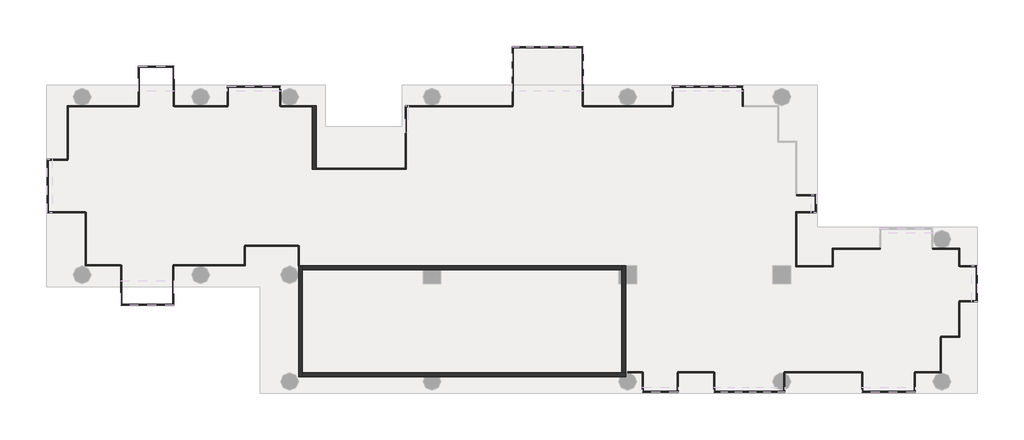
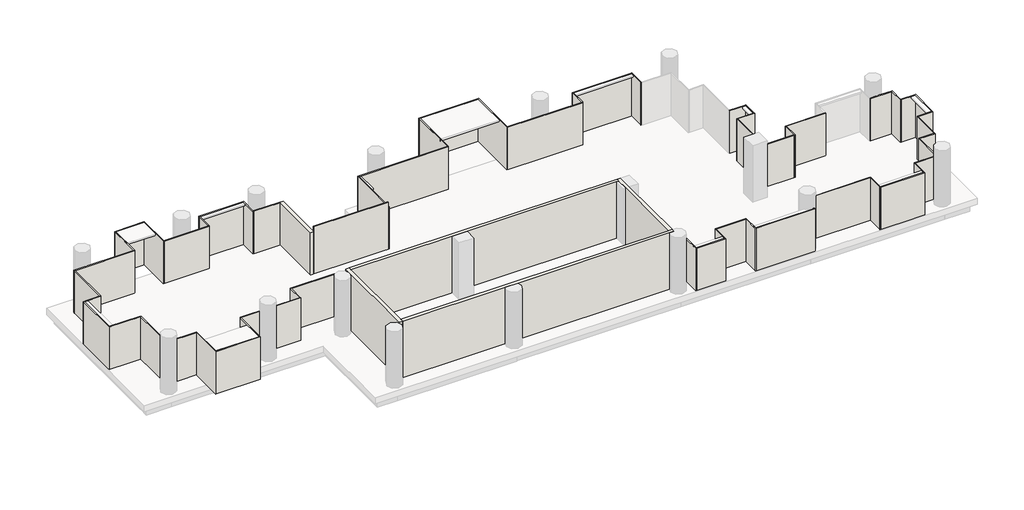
# One storey, part 1 of 2: 65 walls.
"""IFC4 building model written with IfcOpenShell, lengths in millimetres."""

from ifc_helpers import new_model, si_unit, frame, origin, place, context, project, spatial, polyline, outline, extrude, faceted_brep, element, save

model = new_model("IFC4")

# Units and contexts
model_context = context("Model", 3, world=origin())
ifc_project = project(units=[si_unit("LENGTHUNIT", "METRE", prefix="MILLI")], contexts=[model_context])

# Site, building, storey
site = spatial("IfcSite", under=ifc_project)
building = spatial("IfcBuilding", under=site)
storey = spatial("IfcBuildingStorey", under=building, Name="TW-L 18", Elevation=63999.9999686)

# Walls
placement = place(None, origin())
element("IfcWall", 1, ObjectType="AJN-ARC-CONCRETE WALL-20cm", at=placement, inside=storey, context=model_context, shape_type="Brep", body=[
    faceted_brep([(113050.0, 30750.0, 67599.9999686), (113050.0, 30750.0, 63999.9999686), (113050.0, 25150.0, 63999.9999686), (113050.0, 25150.0, 67599.9999686), (113250.0, 30750.0, 63999.9999686), (113250.0, 30750.0, 67599.9999686), (113250.0, 30550.0, 67599.9999686), (113250.0, 25350.0, 67599.9999686), (113250.0, 25150.0, 67599.9999686), (113250.0, 25150.0, 63999.9999686), (113250.0, 25350.0, 63999.9999686), (113250.0, 30550.0, 63999.9999686), (113097.1743518, 30750.0, 63999.9999686)], [[[0, 1, 2, 3]], [[4, 5, 6, 7, 8, 9, 10, 11]], [[2, 1, 12, 4, 11, 10, 9]], [[0, 3, 8, 7, 6, 5]], [[3, 2, 9, 8]], [[0, 5, 4, 12, 1]]]),
])
element("IfcWall", 2, ObjectType="AJN-ARC-CONCRETE WALL-20cm", at=placement, inside=storey, context=model_context, shape_type="Brep", body=[
    faceted_brep([(113250.0, 25150.0, 63999.9999686), (119425.8342613, 25150.0, 63999.9999686), (120174.1657387, 25150.0, 63999.9999686), (129325.8342613, 25150.0, 63999.9999686), (129600.0, 25150.0, 63999.9999686), (129600.0, 25150.0, 67599.9999686), (129325.8342613, 25150.0, 67599.9999686), (120174.1657387, 25150.0, 67599.9999686), (119425.8342613, 25150.0, 67599.9999686), (113250.0, 25150.0, 67599.9999686), (113250.0, 25350.0, 63999.9999686), (113250.0, 25350.0, 67599.9999686), (129400.0, 25350.0, 67599.9999686), (129600.0, 25350.0, 67599.9999686), (129600.0, 25350.0, 63999.9999686), (129400.0, 25350.0, 63999.9999686), (129600.0, 25338.7482194, 63999.9999686), (129600.0, 25338.7482194, 67599.9999686)], [[[0, 1, 2, 3, 4, 5, 6, 7, 8, 9]], [[10, 11, 12, 13, 14, 15]], [[4, 3, 2, 1, 0, 10, 15, 14, 16]], [[9, 8, 7, 6, 5, 17, 13, 12, 11]], [[5, 4, 16, 14, 13, 17]], [[0, 9, 11, 10]]]),
])
element("IfcWall", 3, ObjectType="AJN-ARC-CONCRETE WALL-20cm", at=placement, inside=storey, context=model_context, shape_type="Brep", body=[
    faceted_brep([(129600.0, 25350.0, 63999.9999686), (129600.0, 29850.0, 63999.9999686), (129600.0, 30750.0, 63999.9999686), (129600.0, 30750.0, 67599.9999686), (129600.0, 29850.0, 67599.9999686), (129600.0, 25350.0, 67599.9999686), (129400.0, 25350.0, 63999.9999686), (129400.0, 25350.0, 67599.9999686), (129400.0, 29850.0, 67599.9999686), (129400.0, 30550.0, 67599.9999686), (129400.0, 30750.0, 67599.9999686), (129400.0, 30750.0, 63999.9999686), (129400.0, 30550.0, 63999.9999686), (129400.0, 29850.0, 63999.9999686)], [[[0, 1, 2, 3, 4, 5]], [[6, 7, 8, 9, 10, 11, 12, 13]], [[2, 1, 0, 6, 13, 12, 11]], [[5, 4, 3, 10, 9, 8, 7]], [[3, 2, 11, 10]], [[0, 5, 7, 6]]]),
])
element("IfcWall", 4, ObjectType="AJN-ARC-CONCRETE WALL-20cm", at=placement, inside=storey, context=model_context, shape_type="Brep", body=[
    faceted_brep([(129400.0, 30750.0, 63999.9999686), (113250.0, 30750.0, 63999.9999686), (113250.0, 30750.0, 67599.9999686), (129400.0, 30750.0, 67599.9999686), (129400.0, 30550.0, 63999.9999686), (129400.0, 30550.0, 67599.9999686), (129250.0, 30550.0, 67599.9999686), (120250.0, 30550.0, 67599.9999686), (119350.0, 30550.0, 67599.9999686), (113250.0, 30550.0, 67599.9999686), (113250.0, 30550.0, 63999.9999686), (119350.0, 30550.0, 63999.9999686), (120250.0, 30550.0, 63999.9999686), (129250.0, 30550.0, 63999.9999686)], [[[0, 1, 2, 3]], [[4, 5, 6, 7, 8, 9, 10, 11, 12, 13]], [[1, 0, 4, 13, 12, 11, 10]], [[3, 2, 9, 8, 7, 6, 5]], [[0, 3, 5, 4]], [[1, 10, 9, 2]]]),
])
element("IfcWall", 5, ObjectType="AJN-ARC-CONCRETE WALL-20cm", at=placement, inside=storey, context=model_context, shape_type="Brep", body=[
    faceted_brep([(113950.0, 35650.0, 63999.9999686), (113950.0, 38850.001152, 63999.9999686), (113950.0, 38850.001152, 66699.9999686), (113950.0, 35650.0, 66699.9999686), (113750.0, 35650.0, 63999.9999686), (113750.0, 35650.0, 66699.9999686), (113750.0, 38800.001024, 66699.9999686), (113750.0, 38850.001024, 66699.9999686), (113750.0, 38850.001024, 63999.9999686), (113750.0, 38800.001024, 63999.9999686)], [[[0, 1, 2, 3]], [[4, 5, 6, 7, 8, 9]], [[1, 0, 4, 9, 8]], [[3, 2, 7, 6, 5]], [[0, 3, 5, 4]], [[2, 1, 8, 7]]]),
])
element("IfcWall", 6, ObjectType="AJN-ARC-GLASS-50mm", at=placement, inside=storey, context=model_context, shape_type="SweptSolid", body=[
    extrude(outline(polyline([(112150.0, 38850.0), (113750.0, 38850.001024), (113750.0, 38800.001024), (112150.000032, 38800.0), (112150.0, 38850.0)])), frame((0.0, 0.0, 63999.9999686), z_axis=(0.0, 0.0, 1.0), x_axis=(1.0, 0.0, 0.0)), (0.0, 0.0, 1.0), 2700.0),
])
element("IfcWall", 7, ObjectType="AJN-ARC-GLASS-50mm", at=placement, inside=storey, context=model_context, shape_type="Brep", body=[
    faceted_brep([(112150.0, 38824.999984, 63999.9999686), (112150.0, 39850.0, 63999.9999686), (112150.0, 39850.0, 66699.9999686), (112150.0, 38824.999984, 66699.9999686), (112100.0, 38824.999984, 63999.9999686), (112100.0, 38824.999984, 66699.9999686), (112100.0, 39800.0, 66699.9999686), (112100.0, 39850.0, 66699.9999686), (112100.0, 39850.0, 63999.9999686), (112100.0, 39800.0, 63999.9999686)], [[[0, 1, 2, 3]], [[4, 5, 6, 7, 8, 9]], [[1, 0, 4, 9, 8]], [[3, 2, 7, 6, 5]], [[0, 3, 5, 4]], [[2, 1, 8, 7]]]),
])
element("IfcWall", 8, ObjectType="AJN-ARC-GLASS-50mm", at=placement, inside=storey, context=model_context, shape_type="Brep", body=[
    faceted_brep([(112100.0, 39850.0, 63999.9999686), (109450.0, 39850.0, 63999.9999686), (109450.0, 39850.0, 66699.9999686), (112100.0, 39850.0, 66699.9999686), (112100.0, 39800.0, 63999.9999686), (112100.0, 39800.0, 66699.9999686), (109500.0, 39800.0, 66699.9999686), (109450.0, 39800.0, 66699.9999686), (109450.0, 39800.0, 63999.9999686), (109500.0, 39800.0, 63999.9999686)], [[[0, 1, 2, 3]], [[4, 5, 6, 7, 8, 9]], [[1, 0, 4, 9, 8]], [[3, 2, 7, 6, 5]], [[2, 1, 8, 7]], [[0, 3, 5, 4]]]),
])
element("IfcWall", 9, ObjectType="AJN-ARC-GLASS-50mm", at=placement, inside=storey, context=model_context, shape_type="SweptSolid", body=[
    extrude(outline(polyline([(109450.0, 38850.0), (109450.0, 39800.0), (109500.0, 39800.0), (109500.0, 38850.0), (109450.0, 38850.0)])), frame((0.0, 0.0, 63999.9999686), z_axis=(0.0, 0.0, 1.0), x_axis=(1.0, 0.0, 0.0)), (0.0, 0.0, 1.0), 2700.0),
])
element("IfcWall", 10, ObjectType="AJN-ARC-GLASS-50mm", at=placement, inside=storey, context=model_context, shape_type="SweptSolid", body=[
    extrude(outline(polyline([(106750.0, 38850.0), (109475.0, 38850.0), (109475.0, 38800.0), (106750.0, 38800.0), (106750.0, 38850.0)])), frame((0.0, 0.0, 63999.9999686), z_axis=(0.0, 0.0, 1.0), x_axis=(1.0, 0.0, 0.0)), (0.0, 0.0, 1.0), 2700.0),
])
element("IfcWall", 11, ObjectType="AJN-ARC-GLASS-50mm", at=placement, inside=storey, context=model_context, shape_type="Brep", body=[
    faceted_brep([(106750.0, 38825.0, 63999.9999686), (106750.0, 40850.0, 63999.9999686), (106750.0, 40850.0, 66699.9999686), (106750.0, 38825.0, 66699.9999686), (106700.0, 38825.0, 63999.9999686), (106700.0, 38825.0, 66699.9999686), (106700.0, 40800.0, 66699.9999686), (106700.0, 40850.0, 66699.9999686), (106700.0, 40850.0, 63999.9999686), (106700.0, 40800.0, 63999.9999686)], [[[0, 1, 2, 3]], [[4, 5, 6, 7, 8, 9]], [[1, 0, 4, 9, 8]], [[3, 2, 7, 6, 5]], [[0, 3, 5, 4]], [[2, 1, 8, 7]]]),
])
element("IfcWall", 12, ObjectType="AJN-ARC-GLASS-50mm", at=placement, inside=storey, context=model_context, shape_type="Brep", body=[
    faceted_brep([(106700.0, 40850.0, 63999.9999686), (104950.0, 40850.0, 63999.9999686), (104950.0, 40850.0, 66699.9999686), (106700.0, 40850.0, 66699.9999686), (106700.0, 40800.0, 63999.9999686), (106700.0, 40800.0, 66699.9999686), (105000.0, 40800.0, 66699.9999686), (104950.0, 40800.0, 66699.9999686), (104950.0, 40800.0, 63999.9999686), (105000.0, 40800.0, 63999.9999686)], [[[0, 1, 2, 3]], [[4, 5, 6, 7, 8, 9]], [[1, 0, 4, 9, 8]], [[3, 2, 7, 6, 5]], [[2, 1, 8, 7]], [[0, 3, 5, 4]]]),
])
element("IfcWall", 13, ObjectType="AJN-ARC-GLASS-50mm", at=placement, inside=storey, context=model_context, shape_type="SweptSolid", body=[
    extrude(outline(polyline([(104950.0, 38850.0), (104950.0, 40800.0), (105000.0, 40800.0), (105000.0, 38850.0), (104950.0, 38850.0)])), frame((0.0, 0.0, 63999.9999686), z_axis=(0.0, 0.0, 1.0), x_axis=(1.0, 0.0, 0.0)), (0.0, 0.0, 1.0), 2700.0),
])
element("IfcWall", 14, ObjectType="AJN-ARC-GLASS-50mm", at=placement, inside=storey, context=model_context, shape_type="Brep", body=[
    faceted_brep([(104975.000008, 38849.999992, 63999.9999686), (101347.1743518, 38850.001152, 63999.9999686), (101347.1743518, 38850.001152, 66699.9999686), (104975.000008, 38849.999992, 66699.9999686), (104974.999992, 38799.999992, 63999.9999686), (104974.999992, 38799.999992, 66699.9999686), (101397.1743518, 38800.001136, 66699.9999686), (101347.1743518, 38800.001152, 66699.9999686), (101347.1743518, 38800.001152, 63999.9999686), (101397.1743518, 38800.001136, 63999.9999686)], [[[0, 1, 2, 3]], [[4, 5, 6, 7, 8, 9]], [[1, 0, 4, 9, 8]], [[3, 2, 7, 6, 5]], [[0, 3, 5, 4]], [[2, 1, 8, 7]]]),
])
element("IfcWall", 15, ObjectType="AJN-ARC-GLASS-50mm", at=placement, inside=storey, context=model_context, shape_type="SweptSolid", body=[
    extrude(outline(polyline([(101347.1743518, 36150.0), (101347.1743518, 38800.001152), (101397.1743518, 38800.001136), (101397.1743518, 36150.0), (101347.1743518, 36150.0)])), frame((0.0, 0.0, 63999.9999686), z_axis=(0.0, 0.0, 1.0), x_axis=(1.0, 0.0, 0.0)), (0.0, 0.0, 1.0), 2700.0),
])
element("IfcWall", 16, ObjectType="AJN-ARC-GLASS-50mm", at=placement, inside=storey, context=model_context, shape_type="Brep", body=[
    faceted_brep([(101372.1743518, 36150.0, 63999.9999686), (100347.1743518, 36150.0, 63999.9999686), (100347.1743518, 36150.0, 66699.9999686), (101372.1743518, 36150.0, 66699.9999686), (101372.1743518, 36100.0, 63999.9999686), (101372.1743518, 36100.0, 66699.9999686), (100397.1743518, 36100.0, 66699.9999686), (100347.1743518, 36100.0, 66699.9999686), (100347.1743518, 36100.0, 63999.9999686), (100397.1743518, 36100.0, 63999.9999686)], [[[0, 1, 2, 3]], [[4, 5, 6, 7, 8, 9]], [[1, 0, 4, 9, 8]], [[3, 2, 7, 6, 5]], [[0, 3, 5, 4]], [[2, 1, 8, 7]]]),
])
element("IfcWall", 17, ObjectType="AJN-ARC-GLASS-50mm", at=placement, inside=storey, context=model_context, shape_type="Brep", body=[
    faceted_brep([(100347.1743518, 36100.0, 63999.9999686), (100347.1743518, 33450.0, 63999.9999686), (100347.1743518, 33450.0, 66699.9999686), (100347.1743518, 36100.0, 66699.9999686), (100397.1743518, 36100.0, 63999.9999686), (100397.1743518, 36100.0, 66699.9999686), (100397.1743518, 33500.0, 66699.9999686), (100397.1743518, 33450.0, 66699.9999686), (100397.1743518, 33450.0, 63999.9999686), (100397.1743518, 33500.0, 63999.9999686)], [[[0, 1, 2, 3]], [[4, 5, 6, 7, 8, 9]], [[1, 0, 4, 9, 8]], [[3, 2, 7, 6, 5]], [[2, 1, 8, 7]], [[0, 3, 5, 4]]]),
])
element("IfcWall", 18, ObjectType="AJN-ARC-GLASS-50mm", at=placement, inside=storey, context=model_context, shape_type="SweptSolid", body=[
    extrude(outline(polyline([(102247.1743518, 33450.0), (100397.1743518, 33450.0), (100397.1743518, 33500.0), (102247.1743518, 33500.0), (102247.1743518, 33450.0)])), frame((0.0, 0.0, 63999.9999686), z_axis=(0.0, 0.0, 1.0), x_axis=(1.0, 0.0, 0.0)), (0.0, 0.0, 1.0), 2700.0),
])
element("IfcWall", 19, ObjectType="AJN-ARC-GLASS-50mm", at=placement, inside=storey, context=model_context, shape_type="Brep", body=[
    faceted_brep([(102247.1743518, 33475.0, 63999.9999686), (102247.1743518, 30750.0, 63999.9999686), (102247.1743518, 30750.0, 66699.9999686), (102247.1743518, 33475.0, 66699.9999686), (102297.1743518, 33475.0, 63999.9999686), (102297.1743518, 33475.0, 66699.9999686), (102297.1743518, 30800.0, 66699.9999686), (102297.1743518, 30750.0, 66699.9999686), (102297.1743518, 30750.0, 63999.9999686), (102297.1743518, 30800.0, 63999.9999686)], [[[0, 1, 2, 3]], [[4, 5, 6, 7, 8, 9]], [[1, 0, 4, 9, 8]], [[3, 2, 7, 6, 5]], [[0, 3, 5, 4]], [[2, 1, 8, 7]]]),
])
element("IfcWall", 20, ObjectType="AJN-ARC-GLASS-50mm", at=placement, inside=storey, context=model_context, shape_type="SweptSolid", body=[
    extrude(outline(polyline([(104047.1743518, 30750.0), (102297.1743518, 30750.0), (102297.1743518, 30800.0), (104047.1743518, 30800.0), (104047.1743518, 30750.0)])), frame((0.0, 0.0, 63999.9999686), z_axis=(0.0, 0.0, 1.0), x_axis=(1.0, 0.0, 0.0)), (0.0, 0.0, 1.0), 2700.0),
])
element("IfcWall", 21, ObjectType="AJN-ARC-GLASS-50mm", at=placement, inside=storey, context=model_context, shape_type="Brep", body=[
    faceted_brep([(104047.1743518, 30775.0, 63999.9999686), (104047.1743518, 28750.0, 63999.9999686), (104047.1743518, 28750.0, 66699.9999686), (104047.1743518, 30775.0, 66699.9999686), (104097.1743518, 30775.0, 63999.9999686), (104097.1743518, 30775.0, 66699.9999686), (104097.1743518, 28800.0, 66699.9999686), (104097.1743518, 28750.0, 66699.9999686), (104097.1743518, 28750.0, 63999.9999686), (104097.1743518, 28800.0, 63999.9999686)], [[[0, 1, 2, 3]], [[4, 5, 6, 7, 8, 9]], [[1, 0, 4, 9, 8]], [[3, 2, 7, 6, 5]], [[0, 3, 5, 4]], [[2, 1, 8, 7]]]),
])
element("IfcWall", 22, ObjectType="AJN-ARC-GLASS-50mm", at=placement, inside=storey, context=model_context, shape_type="Brep", body=[
    faceted_brep([(104097.1743518, 28750.0, 63999.9999686), (106747.1743518, 28750.0, 63999.9999686), (106747.1743518, 28750.0, 66699.9999686), (104097.1743518, 28750.0, 66699.9999686), (104097.1743518, 28800.0, 63999.9999686), (104097.1743518, 28800.0, 66699.9999686), (106697.1743518, 28800.0, 66699.9999686), (106747.1743518, 28800.0, 66699.9999686), (106747.1743518, 28800.0, 63999.9999686), (106697.1743518, 28800.0, 63999.9999686)], [[[0, 1, 2, 3]], [[4, 5, 6, 7, 8, 9]], [[1, 0, 4, 9, 8]], [[3, 2, 7, 6, 5]], [[2, 1, 8, 7]], [[0, 3, 5, 4]]]),
])
element("IfcWall", 23, ObjectType="AJN-ARC-GLASS-50mm", at=placement, inside=storey, context=model_context, shape_type="SweptSolid", body=[
    extrude(outline(polyline([(106747.1743518, 30750.0), (106747.1743518, 28800.0), (106697.1743518, 28800.0), (106697.1743518, 30750.0), (106747.1743518, 30750.0)])), frame((0.0, 0.0, 63999.9999686), z_axis=(0.0, 0.0, 1.0), x_axis=(1.0, 0.0, 0.0)), (0.0, 0.0, 1.0), 2700.0),
])
element("IfcWall", 24, ObjectType="AJN-ARC-GLASS-50mm", at=placement, inside=storey, context=model_context, shape_type="Brep", body=[
    faceted_brep([(106722.1743518, 30750.0, 63999.9999686), (110347.1743518, 30750.0, 63999.9999686), (110347.1743518, 30750.0, 66699.9999686), (106722.1743518, 30750.0, 66699.9999686), (106722.1743518, 30800.0, 63999.9999686), (106722.1743518, 30800.0, 66699.9999686), (110297.1743518, 30800.0, 66699.9999686), (110347.1743518, 30800.0, 66699.9999686), (110347.1743518, 30800.0, 63999.9999686), (110297.1743518, 30800.0, 63999.9999686)], [[[0, 1, 2, 3]], [[4, 5, 6, 7, 8, 9]], [[1, 0, 4, 9, 8]], [[3, 2, 7, 6, 5]], [[0, 3, 5, 4]], [[2, 1, 8, 7]]]),
])
element("IfcWall", 25, ObjectType="AJN-ARC-GLASS-50mm", at=placement, inside=storey, context=model_context, shape_type="SweptSolid", body=[
    extrude(outline(polyline([(110347.1743518, 31750.0), (110347.1743518, 30800.0), (110297.1743518, 30800.0), (110297.1743518, 31750.0), (110347.1743518, 31750.0)])), frame((0.0, 0.0, 63999.9999686), z_axis=(0.0, 0.0, 1.0), x_axis=(1.0, 0.0, 0.0)), (0.0, 0.0, 1.0), 2700.0),
])
element("IfcWall", 26, ObjectType="AJN-ARC-GLASS-50mm", at=placement, inside=storey, context=model_context, shape_type="SweptSolid", body=[
    extrude(outline(polyline([(113047.1743518, 31750.0), (110322.1743518, 31750.0), (110322.1743518, 31800.0), (113047.1743518, 31800.0), (113047.1743518, 31750.0)])), frame((0.0, 0.0, 63999.9999686), z_axis=(0.0, 0.0, 1.0), x_axis=(1.0, 0.0, 0.0)), (0.0, 0.0, 1.0), 2700.0),
])
element("IfcWall", 27, ObjectType="AJN-ARC-GLASS-50mm", at=placement, inside=storey, context=model_context, shape_type="Brep", body=[
    faceted_brep([(113047.1743518, 31775.0, 63999.9999686), (113047.1743518, 30750.0, 63999.9999686), (113047.1743518, 30750.0, 66699.9999686), (113047.1743518, 31775.0, 66699.9999686), (113097.1743518, 31775.0, 63999.9999686), (113097.1743518, 31775.0, 66699.9999686), (113097.1743518, 30750.0, 66699.9999686), (113097.1743518, 30750.0, 63999.9999686), (113050.0, 30750.0, 63999.9999686)], [[[0, 1, 2, 3]], [[4, 5, 6, 7]], [[1, 0, 4, 7, 8]], [[3, 2, 6, 5]], [[0, 3, 5, 4]], [[2, 1, 8, 7, 6]]]),
])
element("IfcWall", 28, ObjectType="AJN-ARC-GLASS-50mm", at=placement, inside=storey, context=model_context, shape_type="Brep", body=[
    faceted_brep([(138250.0, 30700.0, 63999.9999686), (138250.0, 30750.0, 63999.9999686), (138250.0, 33450.0, 63999.9999686), (138250.0, 33450.0, 66699.9999686), (138250.0, 30750.0, 66699.9999686), (138250.0, 30700.0, 66699.9999686), (138200.0, 30700.0, 63999.9999686), (138200.0, 30700.0, 66699.9999686), (138200.0, 33450.0, 66699.9999686), (138200.0, 33450.0, 63999.9999686)], [[[0, 1, 2, 3, 4, 5]], [[6, 7, 8, 9]], [[2, 1, 0, 6, 9]], [[5, 4, 3, 8, 7]], [[0, 5, 7, 6]], [[3, 2, 9, 8]]]),
])
element("IfcWall", 29, ObjectType="AJN-ARC-GLASS-50mm", at=placement, inside=storey, context=model_context, shape_type="Brep", body=[
    faceted_brep([(138200.0, 33450.0, 63999.9999686), (138250.0, 33450.0, 63999.9999686), (139250.0, 33450.0, 63999.9999686), (139250.0, 33450.0, 66699.9999686), (138250.0, 33450.0, 66699.9999686), (138200.0, 33450.0, 66699.9999686), (138200.0, 33500.0, 63999.9999686), (138200.0, 33500.0, 66699.9999686), (139200.0, 33500.0, 66699.9999686), (139250.0, 33500.0, 66699.9999686), (139250.0, 33500.0, 63999.9999686), (139200.0, 33500.0, 63999.9999686)], [[[0, 1, 2, 3, 4, 5]], [[6, 7, 8, 9, 10, 11]], [[2, 1, 0, 6, 11, 10]], [[5, 4, 3, 9, 8, 7]], [[3, 2, 10, 9]], [[0, 5, 7, 6]]]),
])
element("IfcWall", 30, ObjectType="AJN-ARC-GLASS-50mm", at=placement, inside=storey, context=model_context, shape_type="Brep", body=[
    faceted_brep([(139250.0, 33500.0, 63999.9999686), (139250.0, 34350.0, 63999.9999686), (139250.0, 34350.0, 66699.9999686), (139250.0, 33500.0, 66699.9999686), (139200.0, 33500.0, 63999.9999686), (139200.0, 33500.0, 66699.9999686), (139200.0, 34300.0, 66699.9999686), (139200.0, 34350.0, 66699.9999686), (139200.0, 34350.0, 63999.9999686), (139200.0, 34300.0, 63999.9999686)], [[[0, 1, 2, 3]], [[4, 5, 6, 7, 8, 9]], [[1, 0, 4, 9, 8]], [[3, 2, 7, 6, 5]], [[2, 1, 8, 7]], [[0, 3, 5, 4]]]),
])
element("IfcWall", 31, ObjectType="AJN-ARC-GLASS-50mm", at=placement, inside=storey, context=model_context, shape_type="SweptSolid", body=[
    extrude(outline(polyline([(138250.0, 34350.0), (139200.0, 34350.0), (139200.0, 34300.0), (138250.0, 34300.0), (138250.0, 34350.0)])), frame((0.0, 0.0, 63999.9999686), z_axis=(0.0, 0.0, 1.0), x_axis=(1.0, 0.0, 0.0)), (0.0, 0.0, 1.0), 2700.0),
])
element("IfcWall", 32, ObjectType="AJN-ARC-GLASS-50mm", at=placement, inside=storey, context=model_context, shape_type="Brep", body=[
    faceted_brep([(135550.0, 38825.0, 63999.9999686), (135550.0, 39850.0, 63999.9999686), (135550.0, 39850.0, 66699.9999686), (135550.0, 38825.0, 66699.9999686), (135500.0, 38825.0, 63999.9999686), (135500.0, 38825.0, 66699.9999686), (135500.0, 39800.0, 66699.9999686), (135500.0, 39850.0, 66699.9999686), (135500.0, 39850.0, 63999.9999686), (135500.0, 39800.0, 63999.9999686)], [[[0, 1, 2, 3]], [[4, 5, 6, 7, 8, 9]], [[1, 0, 4, 9, 8]], [[3, 2, 7, 6, 5]], [[0, 3, 5, 4]], [[2, 1, 8, 7]]]),
])
element("IfcWall", 33, ObjectType="AJN-ARC-GLASS-50mm", at=placement, inside=storey, context=model_context, shape_type="Brep", body=[
    faceted_brep([(135500.0, 39850.0, 63999.9999686), (131950.0, 39850.0, 63999.9999686), (131950.0, 39850.0, 66699.9999686), (135500.0, 39850.0, 66699.9999686), (135500.0, 39800.0, 63999.9999686), (135500.0, 39800.0, 66699.9999686), (132000.0, 39800.0, 66699.9999686), (131950.0, 39800.0, 66699.9999686), (131950.0, 39800.0, 63999.9999686), (132000.0, 39800.0, 63999.9999686)], [[[0, 1, 2, 3]], [[4, 5, 6, 7, 8, 9]], [[1, 0, 4, 9, 8]], [[3, 2, 7, 6, 5]], [[2, 1, 8, 7]], [[0, 3, 5, 4]]]),
])
element("IfcWall", 34, ObjectType="AJN-ARC-GLASS-50mm", at=placement, inside=storey, context=model_context, shape_type="SweptSolid", body=[
    extrude(outline(polyline([(131950.0, 38850.0), (131950.0, 39800.0), (132000.0, 39800.0), (132000.0, 38850.0), (131950.0, 38850.0)])), frame((0.0, 0.0, 63999.9999686), z_axis=(0.0, 0.0, 1.0), x_axis=(1.0, 0.0, 0.0)), (0.0, 0.0, 1.0), 2700.0),
])
element("IfcWall", 35, ObjectType="AJN-ARC-GLASS-50mm", at=placement, inside=storey, context=model_context, shape_type="SweptSolid", body=[
    extrude(outline(polyline([(127463.0639015, 38850.0), (131975.0, 38850.0), (131975.0, 38800.0), (127463.0639015, 38800.0), (127463.0639015, 38850.0)])), frame((0.0, 0.0, 63999.9999686), z_axis=(0.0, 0.0, 1.0), x_axis=(1.0, 0.0, 0.0)), (0.0, 0.0, 1.0), 2700.0),
])
element("IfcWall", 36, ObjectType="AJN-ARC-GLASS-50mm", at=placement, inside=storey, context=model_context, shape_type="Brep", body=[
    faceted_brep([(127463.0639015, 38825.0, 63999.9999686), (127463.0639015, 41850.0, 63999.9999686), (127463.0639015, 41850.0, 66699.9999686), (127463.0639015, 38825.0, 66699.9999686), (127413.0639015, 38825.0, 63999.9999686), (127413.0639015, 38825.0, 66699.9999686), (127413.0639015, 41800.0, 66699.9999686), (127413.0639015, 41850.0, 66699.9999686), (127413.0639015, 41850.0, 63999.9999686), (127413.0639015, 41800.0, 63999.9999686)], [[[0, 1, 2, 3]], [[4, 5, 6, 7, 8, 9]], [[1, 0, 4, 9, 8]], [[3, 2, 7, 6, 5]], [[0, 3, 5, 4]], [[2, 1, 8, 7]]]),
])
element("IfcWall", 37, ObjectType="AJN-ARC-GLASS-50mm", at=placement, inside=storey, context=model_context, shape_type="Brep", body=[
    faceted_brep([(127413.0639015, 41850.0, 63999.9999686), (123863.0639015, 41850.0, 63999.9999686), (123863.0639015, 41850.0, 66699.9999686), (127413.0639015, 41850.0, 66699.9999686), (127413.0639015, 41800.0, 63999.9999686), (127413.0639015, 41800.0, 66699.9999686), (123913.0639015, 41800.0, 66699.9999686), (123863.0639015, 41800.0, 66699.9999686), (123863.0639015, 41800.0, 63999.9999686), (123913.0639015, 41800.0, 63999.9999686)], [[[0, 1, 2, 3]], [[4, 5, 6, 7, 8, 9]], [[1, 0, 4, 9, 8]], [[3, 2, 7, 6, 5]], [[2, 1, 8, 7]], [[0, 3, 5, 4]]]),
])
element("IfcWall", 38, ObjectType="AJN-ARC-GLASS-50mm", at=placement, inside=storey, context=model_context, shape_type="SweptSolid", body=[
    extrude(outline(polyline([(123863.0639015, 38850.0), (123863.0639015, 41800.0), (123913.0639015, 41800.0), (123913.0639015, 38850.0), (123863.0639015, 38850.0)])), frame((0.0, 0.0, 63999.9999686), z_axis=(0.0, 0.0, 1.0), x_axis=(1.0, 0.0, 0.0)), (0.0, 0.0, 1.0), 2700.0),
])
element("IfcWall", 39, ObjectType="AJN-ARC-GLASS-50mm", at=placement, inside=storey, context=model_context, shape_type="Brep", body=[
    faceted_brep([(123888.0639015, 38850.0, 63999.9999686), (118450.0, 38850.0, 63999.9999686), (118450.0, 38850.0, 66699.9999686), (123888.0639015, 38850.0, 66699.9999686), (123888.0639015, 38800.0, 63999.9999686), (123888.0639015, 38800.0, 66699.9999686), (118500.0, 38800.0, 66699.9999686), (118450.0, 38800.0, 66699.9999686), (118450.0, 38800.0, 63999.9999686), (118500.0, 38800.0, 63999.9999686)], [[[0, 1, 2, 3]], [[4, 5, 6, 7, 8, 9]], [[1, 0, 4, 9, 8]], [[3, 2, 7, 6, 5]], [[0, 3, 5, 4]], [[2, 1, 8, 7]]]),
])
element("IfcWall", 40, ObjectType="AJN-ARC-GLASS-50mm", at=placement, inside=storey, context=model_context, shape_type="SweptSolid", body=[
    extrude(outline(polyline([(130450.0, 25350.0), (129714.068817, 25350.0), (129714.068817, 25400.0), (130450.0, 25400.0), (130450.0, 25350.0)])), frame((0.0, 0.0, 63999.9999686), z_axis=(0.0, 0.0, 1.0), x_axis=(1.0, 0.0, 0.0)), (0.0, 0.0, 1.0), 2700.0),
])
element("IfcWall", 41, ObjectType="AJN-ARC-GLASS-50mm", at=placement, inside=storey, context=model_context, shape_type="Brep", body=[
    faceted_brep([(130450.0, 25375.0, 63999.9999686), (130450.0, 24350.0, 63999.9999686), (130450.0, 24350.0, 66699.9999686), (130450.0, 25375.0, 66699.9999686), (130500.0, 25375.0, 63999.9999686), (130500.0, 25375.0, 66699.9999686), (130500.0, 24400.0, 66699.9999686), (130500.0, 24350.0, 66699.9999686), (130500.0, 24350.0, 63999.9999686), (130500.0, 24400.0, 63999.9999686)], [[[0, 1, 2, 3]], [[4, 5, 6, 7, 8, 9]], [[1, 0, 4, 9, 8]], [[3, 2, 7, 6, 5]], [[0, 3, 5, 4]], [[2, 1, 8, 7]]]),
])
element("IfcWall", 42, ObjectType="AJN-ARC-GLASS-50mm", at=placement, inside=storey, context=model_context, shape_type="Brep", body=[
    faceted_brep([(130500.0, 24350.0, 63999.9999686), (132250.0, 24350.0, 63999.9999686), (132250.0, 24350.0, 66699.9999686), (130500.0, 24350.0, 66699.9999686), (130500.0, 24400.0, 63999.9999686), (130500.0, 24400.0, 66699.9999686), (132200.0, 24400.0, 66699.9999686), (132250.0, 24400.0, 66699.9999686), (132250.0, 24400.0, 63999.9999686), (132200.0, 24400.0, 63999.9999686)], [[[0, 1, 2, 3]], [[4, 5, 6, 7, 8, 9]], [[1, 0, 4, 9, 8]], [[3, 2, 7, 6, 5]], [[2, 1, 8, 7]], [[0, 3, 5, 4]]]),
])
element("IfcWall", 43, ObjectType="AJN-ARC-GLASS-50mm", at=placement, inside=storey, context=model_context, shape_type="SweptSolid", body=[
    extrude(outline(polyline([(132250.0, 25350.0), (132250.0, 24400.0), (132200.0, 24400.0), (132200.0, 25350.0), (132250.0, 25350.0)])), frame((0.0, 0.0, 63999.9999686), z_axis=(0.0, 0.0, 1.0), x_axis=(1.0, 0.0, 0.0)), (0.0, 0.0, 1.0), 2700.0),
])
element("IfcWall", 44, ObjectType="AJN-ARC-GLASS-50mm", at=placement, inside=storey, context=model_context, shape_type="SweptSolid", body=[
    extrude(outline(polyline([(134050.2351547, 25350.0), (132225.0, 25350.0), (132225.0, 25400.0), (134050.2351547, 25400.0), (134050.2351547, 25350.0)])), frame((0.0, 0.0, 63999.9999686), z_axis=(0.0, 0.0, 1.0), x_axis=(1.0, 0.0, 0.0)), (0.0, 0.0, 1.0), 2700.0),
])
element("IfcWall", 45, ObjectType="AJN-ARC-GLASS-50mm", at=placement, inside=storey, context=model_context, shape_type="Brep", body=[
    faceted_brep([(134050.2351547, 25375.0, 63999.9999686), (134050.2351547, 24350.0, 63999.9999686), (134050.2351547, 24350.0, 66699.9999686), (134050.2351547, 25375.0, 66699.9999686), (134100.2351547, 25375.0, 63999.9999686), (134100.2351547, 25375.0, 66699.9999686), (134100.2351547, 24400.0, 66699.9999686), (134100.2351547, 24350.0, 66699.9999686), (134100.2351547, 24350.0, 63999.9999686), (134100.2351547, 24400.0, 63999.9999686)], [[[0, 1, 2, 3]], [[4, 5, 6, 7, 8, 9]], [[1, 0, 4, 9, 8]], [[3, 2, 7, 6, 5]], [[0, 3, 5, 4]], [[2, 1, 8, 7]]]),
])
element("IfcWall", 46, ObjectType="AJN-ARC-GLASS-50mm", at=placement, inside=storey, context=model_context, shape_type="Brep", body=[
    faceted_brep([(134100.2351547, 24350.0, 63999.9999686), (137650.2351547, 24350.0, 63999.9999686), (137650.2351547, 24350.0, 66699.9999686), (134100.2351547, 24350.0, 66699.9999686), (134100.2351547, 24400.0, 63999.9999686), (134100.2351547, 24400.0, 66699.9999686), (137600.2351547, 24400.0, 66699.9999686), (137650.2351547, 24400.0, 66699.9999686), (137650.2351547, 24400.0, 63999.9999686), (137600.2351547, 24400.0, 63999.9999686)], [[[0, 1, 2, 3]], [[4, 5, 6, 7, 8, 9]], [[1, 0, 4, 9, 8]], [[3, 2, 7, 6, 5]], [[2, 1, 8, 7]], [[0, 3, 5, 4]]]),
])
element("IfcWall", 47, ObjectType="AJN-ARC-GLASS-50mm", at=placement, inside=storey, context=model_context, shape_type="Brep", body=[
    faceted_brep([(137650.2351547, 24400.0, 63999.9999686), (137650.2351547, 24475.8191444, 63999.9999686), (137650.2351547, 25324.1808556, 63999.9999686), (137650.2351547, 25350.0, 63999.9999686), (137650.2351547, 25350.0, 66699.9999686), (137650.2351547, 25324.1808556, 66699.9999686), (137650.2351547, 24475.8191444, 66699.9999686), (137650.2351547, 24400.0, 66699.9999686), (137600.2351547, 24400.0, 63999.9999686), (137600.2351547, 24400.0, 66699.9999686), (137600.2351547, 24461.3054437, 66699.9999686), (137600.2351547, 25338.6945563, 66699.9999686), (137600.2351547, 25350.0, 66699.9999686), (137600.2351547, 25350.0, 63999.9999686), (137600.2351547, 25338.6945563, 63999.9999686), (137600.2351547, 24461.3054437, 63999.9999686)], [[[0, 1, 2, 3, 4, 5, 6, 7]], [[8, 9, 10, 11, 12, 13, 14, 15]], [[3, 2, 1, 0, 8, 15, 14, 13]], [[4, 3, 13, 12]], [[7, 6, 5, 4, 12, 11, 10, 9]], [[0, 7, 9, 8]]]),
])
element("IfcWall", 48, ObjectType="AJN-ARC-GLASS-50mm", at=placement, inside=storey, context=model_context, shape_type="SweptSolid", body=[
    extrude(outline(polyline([(141550.0, 25350.0), (137625.2351547, 25350.0), (137625.2351547, 25400.0), (141550.0, 25400.0), (141550.0, 25350.0)])), frame((0.0, 0.0, 63999.9999686), z_axis=(0.0, 0.0, 1.0), x_axis=(1.0, 0.0, 0.0)), (0.0, 0.0, 1.0), 2700.0),
])
element("IfcWall", 49, ObjectType="AJN-ARC-GLASS-50mm", at=placement, inside=storey, context=model_context, shape_type="Brep", body=[
    faceted_brep([(141550.0, 25375.0, 63999.9999686), (141550.0, 24350.0, 63999.9999686), (141550.0, 24350.0, 66699.9999686), (141550.0, 25375.0, 66699.9999686), (141600.0, 25375.0, 63999.9999686), (141600.0, 25375.0, 66699.9999686), (141600.0, 24400.0, 66699.9999686), (141600.0, 24350.0, 66699.9999686), (141600.0, 24350.0, 63999.9999686), (141600.0, 24400.0, 63999.9999686)], [[[0, 1, 2, 3]], [[4, 5, 6, 7, 8, 9]], [[1, 0, 4, 9, 8]], [[3, 2, 7, 6, 5]], [[0, 3, 5, 4]], [[2, 1, 8, 7]]]),
])
element("IfcWall", 50, ObjectType="AJN-ARC-GLASS-50mm", at=placement, inside=storey, context=model_context, shape_type="Brep", body=[
    faceted_brep([(141600.0, 24350.0, 63999.9999686), (144250.0, 24350.0, 63999.9999686), (144250.0, 24350.0, 66699.9999686), (141600.0, 24350.0, 66699.9999686), (141600.0, 24400.0, 63999.9999686), (141600.0, 24400.0, 66699.9999686), (144200.0, 24400.0, 66699.9999686), (144250.0, 24400.0, 66699.9999686), (144250.0, 24400.0, 63999.9999686), (144200.0, 24400.0, 63999.9999686)], [[[0, 1, 2, 3]], [[4, 5, 6, 7, 8, 9]], [[1, 0, 4, 9, 8]], [[3, 2, 7, 6, 5]], [[2, 1, 8, 7]], [[0, 3, 5, 4]]]),
])
element("IfcWall", 51, ObjectType="AJN-ARC-GLASS-50mm", at=placement, inside=storey, context=model_context, shape_type="SweptSolid", body=[
    extrude(outline(polyline([(144250.0, 25350.0), (144250.0, 24400.0), (144200.0, 24400.0), (144200.0, 25350.0), (144250.0, 25350.0)])), frame((0.0, 0.0, 63999.9999686), z_axis=(0.0, 0.0, 1.0), x_axis=(1.0, 0.0, 0.0)), (0.0, 0.0, 1.0), 2700.0),
])
element("IfcWall", 52, ObjectType="AJN-ARC-GLASS-50mm", at=placement, inside=storey, context=model_context, shape_type="Brep", body=[
    faceted_brep([(144225.0, 25350.0, 63999.9999686), (145569.0941726, 25350.0, 63999.9999686), (145569.0941726, 25350.0, 66699.9999686), (144225.0, 25350.0, 66699.9999686), (144225.0, 25400.0, 63999.9999686), (144225.0, 25400.0, 66699.9999686), (145519.0941726, 25400.0, 66699.9999686), (145569.0941726, 25400.0, 66699.9999686), (145569.0941726, 25400.0, 63999.9999686), (145519.0941726, 25400.0, 63999.9999686)], [[[0, 1, 2, 3]], [[4, 5, 6, 7, 8, 9]], [[1, 0, 4, 9, 8]], [[3, 2, 7, 6, 5]], [[0, 3, 5, 4]], [[2, 1, 8, 7]]]),
])
element("IfcWall", 53, ObjectType="AJN-ARC-GLASS-50mm", at=placement, inside=storey, context=model_context, shape_type="SweptSolid", body=[
    extrude(outline(polyline([(145569.0941726, 27150.8156588), (145569.0941726, 25400.0), (145519.0941726, 25400.0), (145519.0941726, 27150.8156588), (145569.0941726, 27150.8156588)])), frame((0.0, 0.0, 63999.9999686), z_axis=(0.0, 0.0, 1.0), x_axis=(1.0, 0.0, 0.0)), (0.0, 0.0, 1.0), 2700.0),
])
element("IfcWall", 54, ObjectType="AJN-ARC-GLASS-50mm", at=placement, inside=storey, context=model_context, shape_type="Brep", body=[
    faceted_brep([(145544.0941726, 27150.8156588, 63999.9999686), (146497.681474, 27150.8156588, 63999.9999686), (146497.681474, 27150.8156588, 66699.9999686), (145544.0941726, 27150.8156588, 66699.9999686), (145544.0941726, 27200.8156588, 63999.9999686), (145544.0941726, 27200.8156588, 66699.9999686), (146447.681474, 27200.8156588, 66699.9999686), (146497.681474, 27200.8156588, 66699.9999686), (146497.681474, 27200.8156588, 63999.9999686), (146447.681474, 27200.8156588, 63999.9999686)], [[[0, 1, 2, 3]], [[4, 5, 6, 7, 8, 9]], [[1, 0, 4, 9, 8]], [[3, 2, 7, 6, 5]], [[0, 3, 5, 4]], [[2, 1, 8, 7]]]),
])
element("IfcWall", 55, ObjectType="AJN-ARC-GLASS-50mm", at=placement, inside=storey, context=model_context, shape_type="SweptSolid", body=[
    extrude(outline(polyline([(146497.681474, 28948.6421571), (146497.681474, 27200.8156588), (146447.681474, 27200.8156588), (146447.681474, 28948.6421571), (146497.681474, 28948.6421571)])), frame((0.0, 0.0, 63999.9999686), z_axis=(0.0, 0.0, 1.0), x_axis=(1.0, 0.0, 0.0)), (0.0, 0.0, 1.0), 2700.0),
])
element("IfcWall", 56, ObjectType="AJN-ARC-GLASS-50mm", at=placement, inside=storey, context=model_context, shape_type="Brep", body=[
    faceted_brep([(146472.681474, 28948.6421571, 63999.9999686), (147397.681474, 28948.6421571, 63999.9999686), (147397.681474, 28948.6421571, 66699.9999686), (146472.681474, 28948.6421571, 66699.9999686), (146472.681474, 28998.6421571, 63999.9999686), (146472.681474, 28998.6421571, 66699.9999686), (147347.681474, 28998.6421571, 66699.9999686), (147397.681474, 28998.6421571, 66699.9999686), (147397.681474, 28998.6421571, 63999.9999686), (147347.681474, 28998.6421571, 63999.9999686)], [[[0, 1, 2, 3]], [[4, 5, 6, 7, 8, 9]], [[1, 0, 4, 9, 8]], [[3, 2, 7, 6, 5]], [[0, 3, 5, 4]], [[2, 1, 8, 7]]]),
])
element("IfcWall", 57, ObjectType="AJN-ARC-GLASS-50mm", at=placement, inside=storey, context=model_context, shape_type="Brep", body=[
    faceted_brep([(147397.681474, 28998.6421571, 63999.9999686), (147397.681474, 30748.6421571, 63999.9999686), (147397.681474, 30748.6421571, 66699.9999686), (147397.681474, 28998.6421571, 66699.9999686), (147347.681474, 28998.6421571, 63999.9999686), (147347.681474, 28998.6421571, 66699.9999686), (147347.681474, 30698.6421571, 66699.9999686), (147347.681474, 30748.6421571, 66699.9999686), (147347.681474, 30748.6421571, 63999.9999686), (147347.681474, 30698.6421571, 63999.9999686)], [[[0, 1, 2, 3]], [[4, 5, 6, 7, 8, 9]], [[1, 0, 4, 9, 8]], [[3, 2, 7, 6, 5]], [[2, 1, 8, 7]], [[0, 3, 5, 4]]]),
])
element("IfcWall", 58, ObjectType="AJN-ARC-GLASS-50mm", at=placement, inside=storey, context=model_context, shape_type="SweptSolid", body=[
    extrude(outline(polyline([(146497.681474, 30748.6421571), (147347.681474, 30748.6421571), (147347.681474, 30698.6421571), (146497.681474, 30698.6421571), (146497.681474, 30748.6421571)])), frame((0.0, 0.0, 63999.9999686), z_axis=(0.0, 0.0, 1.0), x_axis=(1.0, 0.0, 0.0)), (0.0, 0.0, 1.0), 2700.0),
])
element("IfcWall", 59, ObjectType="AJN-ARC-GLASS-50mm", at=placement, inside=storey, context=model_context, shape_type="Brep", body=[
    faceted_brep([(146497.681474, 30723.6421571, 63999.9999686), (146497.681474, 31651.6593424, 63999.9999686), (146497.681474, 31651.6593424, 66699.9999686), (146497.681474, 30723.6421571, 66699.9999686), (146447.681474, 30723.6421571, 63999.9999686), (146447.681474, 30723.6421571, 66699.9999686), (146447.681474, 31601.6593424, 66699.9999686), (146447.681474, 31651.6593424, 66699.9999686), (146447.681474, 31651.6593424, 63999.9999686), (146447.681474, 31601.6593424, 63999.9999686)], [[[0, 1, 2, 3]], [[4, 5, 6, 7, 8, 9]], [[1, 0, 4, 9, 8]], [[3, 2, 7, 6, 5]], [[0, 3, 5, 4]], [[2, 1, 8, 7]]]),
])
element("IfcWall", 60, ObjectType="AJN-ARC-GLASS-50mm", at=placement, inside=storey, context=model_context, shape_type="Brep", body=[
    faceted_brep([(146447.681474, 31651.6593424, 63999.9999686), (145638.6089983, 31651.6593424, 63999.9999686), (145561.3910017, 31651.6593424, 63999.9999686), (145150.0, 31651.6593424, 63999.9999686), (145150.0, 31651.6593424, 66699.9999686), (145561.3910017, 31651.6593424, 66699.9999686), (145638.6089983, 31651.6593424, 66699.9999686), (146447.681474, 31651.6593424, 66699.9999686), (146447.681474, 31601.6593424, 63999.9999686), (146447.681474, 31601.6593424, 66699.9999686), (145150.0, 31601.6593424, 66699.9999686), (145150.0, 31601.6593424, 63999.9999686)], [[[0, 1, 2, 3, 4, 5, 6, 7]], [[8, 9, 10, 11]], [[3, 2, 1, 0, 8, 11]], [[4, 3, 11, 10]], [[7, 6, 5, 4, 10, 9]], [[0, 7, 9, 8]]]),
])
element("IfcWall", 61, ObjectType="AJN-ARC-GLASS-50mm", at=placement, inside=storey, context=model_context, shape_type="Brep", body=[
    faceted_brep([(142475.0, 31651.6593424, 63999.9999686), (140050.0, 31651.6593424, 63999.9999686), (140050.0, 31651.6593424, 66699.9999686), (142475.0, 31651.6593424, 66699.9999686), (142475.0, 31601.6593424, 63999.9999686), (142475.0, 31601.6593424, 66699.9999686), (140100.0, 31601.6593424, 66699.9999686), (140050.0, 31601.6593424, 66699.9999686), (140050.0, 31601.6593424, 63999.9999686), (140100.0, 31601.6593424, 63999.9999686)], [[[0, 1, 2, 3]], [[4, 5, 6, 7, 8, 9]], [[1, 0, 4, 9, 8]], [[3, 2, 7, 6, 5]], [[0, 3, 5, 4]], [[2, 1, 8, 7]]]),
])
element("IfcWall", 62, ObjectType="AJN-ARC-GLASS-50mm", at=placement, inside=storey, context=model_context, shape_type="Brep", body=[
    faceted_brep([(140050.0, 31601.6593424, 63999.9999686), (140050.0, 30750.0, 63999.9999686), (140050.0, 30700.0, 63999.9999686), (140050.0, 30700.0, 66699.9999686), (140050.0, 30750.0, 66699.9999686), (140050.0, 31601.6593424, 66699.9999686), (140100.0, 31601.6593424, 63999.9999686), (140100.0, 31601.6593424, 66699.9999686), (140100.0, 30700.0, 66699.9999686), (140100.0, 30700.0, 63999.9999686)], [[[0, 1, 2, 3, 4, 5]], [[6, 7, 8, 9]], [[2, 1, 0, 6, 9]], [[5, 4, 3, 8, 7]], [[0, 5, 7, 6]], [[3, 2, 9, 8]]]),
])
element("IfcWall", 63, ObjectType="AJN-ARC-GLASS-50mm", at=placement, inside=storey, context=model_context, shape_type="SweptSolid", body=[
    extrude(outline(polyline([(138250.0, 30750.0), (140050.0, 30750.0), (140050.0, 30700.0), (138250.0, 30700.0), (138250.0, 30750.0)])), frame((0.0, 0.0, 63999.9999686), z_axis=(0.0, 0.0, 1.0), x_axis=(1.0, 0.0, 0.0)), (0.0, 0.0, 1.0), 2700.0),
])
element("IfcWall", 64, ObjectType="AJN-ARC-GLASS-50mm", at=placement, inside=storey, context=model_context, shape_type="SweptSolid", body=[
    extrude(outline(polyline([(118450.0, 35650.0), (118450.0, 38800.0), (118500.0, 38800.0), (118500.0, 35650.0), (118450.0, 35650.0)])), frame((0.0, 0.0, 63999.9999686), z_axis=(0.0, 0.0, 1.0), x_axis=(1.0, 0.0, 0.0)), (0.0, 0.0, 1.0), 2700.0),
])
element("IfcWall", 65, ObjectType="AJN-ARC-GLASS-50mm", at=placement, inside=storey, context=model_context, shape_type="SweptSolid", body=[
    extrude(outline(polyline([(118450.0, 35650.0), (113950.0, 35650.0), (113950.0, 35700.0), (118450.0, 35700.0), (118450.0, 35650.0)])), frame((0.0, 0.0, 63999.9999686), z_axis=(0.0, 0.0, 1.0), x_axis=(1.0, 0.0, 0.0)), (0.0, 0.0, 1.0), 3000.0),
])

save(model, "model.ifc")
